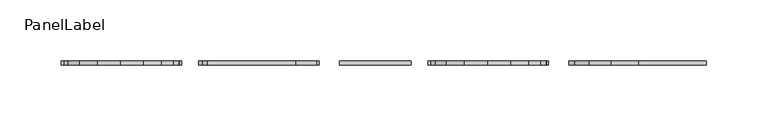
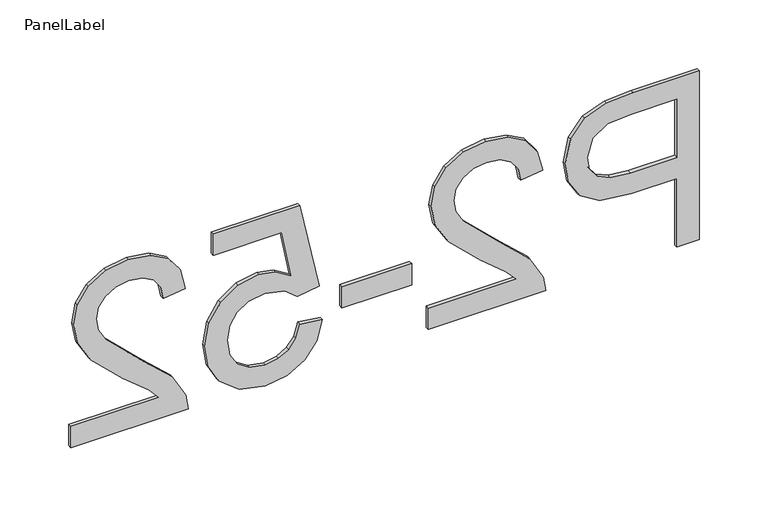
"""IFC4 building model written with IfcOpenShell, lengths in millimetres: fastener geometry, PanelLabel : Miranda."""

import ifcopenshell
import ifcopenshell.guid

model = None  # the IFC model being written
_history = None  # IfcOwnerHistory: only IFC2X3 demands one
_inside = {}  # id of a spatial element -> (the spatial element, [elements in it])
_under = {}  # id of a project, library or spatial element -> (it, [spatial elements below it])
_declared = {}  # id of a project -> (the project, [libraries it declares])
_typed = {}  # id of a type object -> (the type object, [elements of that type])
_made_of = {}  # id of a material, layer set ... -> (it, [elements and type objects made of it])


def new_model(schema):
    """Start an empty IFC model of exactly this schema.

    Asked for "IFC4X3", IfcOpenShell would pick the latest addendum, in which some entities
    have other attributes; the version numbers below select the first issue.
    IFC2X3 requires an IfcOwnerHistory on every rooted entity: one is made here for all.
    """
    global model, _history
    if schema == "IFC4X3":
        model = ifcopenshell.file(schema_version=(4, 3, 0, 0))
    else:
        model = ifcopenshell.file(schema=schema)
    _inside.clear()
    _under.clear()
    _declared.clear()
    _typed.clear()
    _made_of.clear()
    _history = None
    if model.schema == "IFC2X3":
        org = make("IfcOrganization", Name="unknown")
        user = make(
            "IfcPersonAndOrganization",
            ThePerson=make("IfcPerson", FamilyName="unknown"),
            TheOrganization=org,
        )
        app = make(
            "IfcApplication",
            ApplicationDeveloper=org,
            Version="unknown",
            ApplicationFullName="unknown",
            ApplicationIdentifier="unknown",
        )
        _history = make(
            "IfcOwnerHistory",
            OwningUser=user,
            OwningApplication=app,
            ChangeAction="ADDED",
            CreationDate=0,
        )
    return model


def make(cls, **values):
    """One entity of the class cls with the attributes given. An attribute that is None is left unset."""
    return model.create_entity(
        cls, **{name: value for name, value in values.items() if value is not None}
    )


def rooted(cls, **values):
    """An entity with a GlobalId (a new one), such as an element, a storey or a relation."""
    return make(cls, GlobalId=ifcopenshell.guid.new(), OwnerHistory=_history, **values)


def si_unit(unit_type, name, prefix=None):
    """IfcSIUnit, for example si_unit("LENGTHUNIT", "METRE", prefix="MILLI")."""
    return make("IfcSIUnit", UnitType=unit_type, Prefix=prefix, Name=name)


def assignment(units):
    """IfcUnitAssignment: the units of a project."""
    return None if units is None else make("IfcUnitAssignment", Units=units)


def point(xyz):
    """IfcCartesianPoint."""
    return None if xyz is None else make("IfcCartesianPoint", Coordinates=xyz)


def direction(xyz):
    """IfcDirection."""
    return None if xyz is None else make("IfcDirection", DirectionRatios=xyz)


def frame(location, z_axis=None, x_axis=None):
    """IfcAxis2Placement3D, a coordinate frame: its origin and axes. An axis left out is left unset."""
    return make(
        "IfcAxis2Placement3D",
        Location=point(location),
        Axis=direction(z_axis),
        RefDirection=direction(x_axis),
    )


def origin():
    """The frame at (0, 0, 0) with its axes left unset."""
    return frame((0.0, 0.0, 0.0))


def place(relative_to, where):
    """IfcLocalPlacement: puts the frame where relative to a parent placement (None: the world)."""
    return make(
        "IfcLocalPlacement", PlacementRelTo=relative_to, RelativePlacement=where
    )


def context(
    kind, dimensions, precision=None, world=None, true_north=None, identifier=None
):
    """IfcGeometricRepresentationContext, for example the 3D "Model" context."""
    return make(
        "IfcGeometricRepresentationContext",
        ContextIdentifier=identifier,
        ContextType=kind,
        CoordinateSpaceDimension=dimensions,
        Precision=precision,
        WorldCoordinateSystem=world,
        TrueNorth=true_north,
    )


def project(units=None, contexts=None):
    """IfcProject with its units and contexts."""
    return rooted(
        "IfcProject",
        Name="project",
        RepresentationContexts=contexts,
        UnitsInContext=assignment(units),
    )


def spatial(cls, under=None, at=None, **own):
    """A site, building, storey or space (cls), placed at a placement, below another one or the project."""
    s = rooted(cls, ObjectPlacement=at, **own)
    if under is not None:
        _under.setdefault(under.id(), (under, []))[1].append(s)
    return s


def polyline(points):
    """IfcPolyline through the points."""
    return make("IfcPolyline", Points=[point(p) for p in points])


def outline(outer, holes=None, kind="AREA"):
    """IfcArbitraryClosedProfileDef: a profile drawn as a closed curve; with holes, ...WithVoids."""
    if holes is None:
        return make("IfcArbitraryClosedProfileDef", ProfileType=kind, OuterCurve=outer)
    return make(
        "IfcArbitraryProfileDefWithVoids",
        ProfileType=kind,
        OuterCurve=outer,
        InnerCurves=holes,
    )


def extrude(swept, where, along, depth):
    """IfcExtrudedAreaSolid: the profile swept, set in the frame where, extruded along a direction by depth."""
    return make(
        "IfcExtrudedAreaSolid",
        SweptArea=swept,
        Position=where,
        ExtrudedDirection=direction(along),
        Depth=depth,
    )


def shape(context_of_items, identifier, shape_type, items):
    """IfcShapeRepresentation: the items that make up one representation, for example the "Body"."""
    return make(
        "IfcShapeRepresentation",
        ContextOfItems=context_of_items,
        RepresentationIdentifier=identifier,
        RepresentationType=shape_type,
        Items=items,
    )


def source(mapping_origin, context_of_items, identifier, shape_type, items):
    """IfcRepresentationMap: a shape defined once, which mapped items show again and again."""
    return make(
        "IfcRepresentationMap",
        MappingOrigin=mapping_origin,
        MappedRepresentation=shape(context_of_items, identifier, shape_type, items),
    )


def transform(
    local_origin,
    x_axis=None,
    y_axis=None,
    z_axis=None,
    scale=None,
    scale2=None,
    scale3=None,
    uniform=True,
):
    """IfcCartesianTransformationOperator3D, or its non-uniform kind. x_axis, y_axis, z_axis: its Axis1, 2, 3."""
    if uniform:
        return make(
            "IfcCartesianTransformationOperator3D",
            Axis1=direction(x_axis),
            Axis2=direction(y_axis),
            LocalOrigin=point(local_origin),
            Scale=scale,
            Axis3=direction(z_axis),
        )
    return make(
        "IfcCartesianTransformationOperator3DnonUniform",
        Axis1=direction(x_axis),
        Axis2=direction(y_axis),
        LocalOrigin=point(local_origin),
        Scale=scale,
        Axis3=direction(z_axis),
        Scale2=scale2,
        Scale3=scale3,
    )


def mapped(mapping_source, mapping_target):
    """IfcMappedItem: shows the shape of a source again, moved by a transform."""
    return make(
        "IfcMappedItem", MappingSource=mapping_source, MappingTarget=mapping_target
    )


def made_of(thing, what):
    """Note that an element or type object is made of a material, layer set ...; save() writes the relation."""
    if what is not None:
        _made_of.setdefault(what.id(), (what, []))[1].append(thing)
    return thing


def element(
    cls,
    number,
    at=None,
    inside=None,
    cuts=None,
    type_object=None,
    material=None,
    context=None,
    identifier="Body",
    shape_type=None,
    held_by="IfcProductDefinitionShape",
    body=None,
    shapes=None,
    **own,
):
    """One element of the class cls, such as IfcWall. Its Tag is "e" and its number.

    at: its placement. inside: the storey or other place that contains it. cuts: it is an
    opening in that element (IfcRelVoidsElement). A single representation is given by context,
    identifier, shape_type and body (its items); several are given by shapes. held_by: the class
    of the entity that holds the representations. save() writes the other relations.
    """
    e = rooted(cls, Tag="e%d" % number, ObjectPlacement=at, **own)
    if body is not None:
        shapes = [shape(context, identifier, shape_type, body)]
    if shapes is not None:
        e.Representation = make(held_by, Representations=shapes)
    if inside is not None:
        _inside.setdefault(inside.id(), (inside, []))[1].append(e)
    if cuts is not None:
        rooted(
            "IfcRelVoidsElement", RelatingBuildingElement=cuts, RelatedOpeningElement=e
        )
    if type_object is not None:
        _typed.setdefault(type_object.id(), (type_object, []))[1].append(e)
    return made_of(e, material)


def aggregate(whole, parts):
    """IfcRelAggregates: a whole, such as a stair, and the parts it consists of."""
    return rooted("IfcRelAggregates", RelatingObject=whole, RelatedObjects=parts)


def save(model, path):
    """Write the relations noted so far, then the file.

    IfcRelAggregates (storeys below a building ...), IfcRelContainedInSpatialStructure (elements
    in a storey), IfcRelDefinesByType, IfcRelAssociatesMaterial and IfcRelDeclares: one each for
    every whole, place, type object, material and project.
    """
    for whole, parts in _under.values():
        aggregate(whole, parts)
    for where, things in _inside.values():
        rooted(
            "IfcRelContainedInSpatialStructure",
            RelatedElements=things,
            RelatingStructure=where,
        )
    for kind, things in _typed.values():
        rooted("IfcRelDefinesByType", RelatedObjects=things, RelatingType=kind)
    for what, things in _made_of.values():
        rooted("IfcRelAssociatesMaterial", RelatedObjects=things, RelatingMaterial=what)
    for by, libraries in _declared.values():
        rooted("IfcRelDeclares", RelatingContext=by, RelatedDefinitions=libraries)
    model.write(path)


def panellabel_398e1005(model_context):
    return source(origin(), model_context, "Body", "SweptSolid", [
        extrude(outline(polyline([(1310.9113766, 260.2523077), (1460.9667612, 260.2523077), (1460.9667612, 204.6409615), (1459.5380112, 182.2205769), (1452.5224823, 163.9948558), (1438.0151747, 152.1801923), (1417.554742, 147.7107692), (1399.8693814, 150.7285457), (1385.1331073, 159.781875), (1375.1868093, 176.7116466), (1371.8713766, 203.35875), (1371.8713766, 241.4953846), (1310.9113766, 241.4953846), (1310.9113766, 260.2523077)]), holes=[polyline([(1390.6282997, 241.4953846), (1390.6282997, 202.2597115), (1392.3501266, 185.6275962), (1397.5156073, 174.6372115), (1405.8041891, 168.5100721), (1416.8953189, 166.4676923), (1432.4283958, 171.2851442), (1440.9276266, 183.9424038), (1442.2098381, 202.6993269), (1442.2098381, 241.4953846), (1390.6282997, 241.4953846)])]), frame((0.0, 60.325, 0.0), z_axis=(0.0, 1.0, 0.0), x_axis=(0.0, 0.0, 1.0)), (0.0, 0.0, 1.0), 3.175),
        extrude(outline(polyline([(1329.6682997, 32.8246154), (1310.9113766, 32.8246154), (1310.9113766, 131.2984615), (1323.8433958, 129.2835577), (1343.7543093, 117.8901923), (1365.4969535, 94.4074038), (1396.7462804, 62.0224038), (1407.5168573, 55.9502163), (1417.9943573, 53.9261538), (1427.3865569, 55.8357332), (1435.1943093, 61.5644712), (1440.4559559, 70.3705168), (1442.2098381, 81.5120192), (1440.4971698, 93.2121995), (1435.359165, 102.3021635), (1427.1988045, 108.1682813), (1416.4190689, 110.1969231), (1418.7636843, 128.9538462), (1436.9069775, 124.4065745), (1450.1595497, 114.5747596), (1458.2649583, 99.9712861), (1460.9667612, 81.1090385), (1457.9627227, 62.1094111), (1448.9506073, 47.5334135), (1435.4873862, 38.2602764), (1419.1300304, 35.1692308), (1401.3439247, 38.5029808), (1382.9533477, 49.5849519), (1357.254165, 76.4564423), (1339.211617, 98.0342308), (1329.6682997, 106.4968269), (1329.6682997, 32.8246154)])), frame((0.0, 60.325, 0.0), z_axis=(0.0, 1.0, 0.0), x_axis=(0.0, 0.0, 1.0)), (0.0, 0.0, 1.0), 3.175),
        extrude(outline(polyline([(-39.8584615, 63.5), (18.7569231, 63.5), (18.7569231, 60.325), (-39.8584615, 60.325), (-39.8584615, 63.5)])), frame((0.0, 0.0, 1355.4590689), z_axis=(0.0, 0.0, 1.0), x_axis=(1.0, 0.0, 0.0)), (0.0, 0.0, 1.0), 18.7569231),
        extrude(outline(polyline([(1350.7698381, -56.2707692), (1353.1144535, -75.0276923), (1341.8538886, -78.4713462), (1333.7896939, -84.4794231), (1328.9401867, -93.0244471), (1327.3236843, -104.0789423), (1329.5721338, -117.5238462), (1336.3174823, -127.5983654), (1346.7812444, -133.8903606), (1360.1849343, -135.9876923), (1372.8055593, -134.0231611), (1382.4587804, -128.1295673), (1388.5859198, -118.2611178), (1390.6282997, -104.3720192), (1387.3678189, -87.9047596), (1378.9052227, -77.3723077), (1381.2498381, -58.6153846), (1458.6221458, -75.0276923), (1458.6221458, -147.7107692), (1439.8652227, -147.7107692), (1439.8652227, -90.1944231), (1398.5413766, -82.1714423), (1406.6742612, -95.5705529), (1409.3852227, -109.6107692), (1406.0239968, -127.1358534), (1395.9403189, -141.684375), (1380.5720977, -151.4795553), (1361.357242, -154.7446154), (1342.6003189, -151.8046875), (1326.5543573, -142.9849038), (1313.0636602, -126.0963462), (1308.5667612, -104.0056731), (1311.4563165, -85.5830409), (1320.1249823, -70.9062981), (1333.5653069, -60.8455168), (1350.7698381, -56.2707692)])), frame((0.0, 60.325, 0.0), z_axis=(0.0, 1.0, 0.0), x_axis=(0.0, 0.0, 1.0)), (0.0, 0.0, 1.0), 3.175),
        extrude(outline(polyline([(1329.6682997, -267.2861538), (1310.9113766, -267.2861538), (1310.9113766, -168.8123077), (1323.8433958, -170.8272115), (1343.7543093, -182.2205769), (1365.4969535, -205.7033654), (1396.7462804, -238.0883654), (1407.5168573, -244.1605529), (1417.9943573, -246.1846154), (1427.3865569, -244.2750361), (1435.1943093, -238.5462981), (1440.4559559, -229.7402524), (1442.2098381, -218.59875), (1440.4971698, -206.8985697), (1435.359165, -197.8086058), (1427.1988045, -191.942488), (1416.4190689, -189.9138462), (1418.7636843, -171.1569231), (1436.9069775, -175.7041947), (1450.1595497, -185.5360096), (1458.2649583, -200.1394832), (1460.9667612, -219.0017308), (1457.9627227, -238.0013582), (1448.9506073, -252.5773558), (1435.4873862, -261.8504928), (1419.1300304, -264.9415385), (1401.3439247, -261.6077885), (1382.9533477, -250.5258173), (1357.254165, -223.6543269), (1339.211617, -202.0765385), (1329.6682997, -193.6139423), (1329.6682997, -267.2861538)])), frame((0.0, 60.325, 0.0), z_axis=(0.0, 1.0, 0.0), x_axis=(0.0, 0.0, 1.0)), (0.0, 0.0, 1.0), 3.175),
    ])


if __name__ == "__main__":
    model = new_model("IFC4")
    model_context = context("Model", 3, world=origin())
    ifc_project = project(units=[si_unit("LENGTHUNIT", "METRE", prefix="MILLI")], contexts=[model_context])
    site = spatial("IfcSite", under=ifc_project)
    building = spatial("IfcBuilding", under=site)
    placement = place(None, origin())
    panellabel_shape = panellabel_398e1005(model_context)
    element("IfcFastener", 1, ObjectType="PanelLabel : Miranda", at=placement, inside=building, context=model_context, shape_type="MappedRepresentation", body=[
        mapped(panellabel_shape, transform((0.0, 0.0, 0.0), x_axis=(1.0, 0.0, 0.0), y_axis=(0.0, 1.0, 0.0), z_axis=(0.0, 0.0, 1.0))),
    ])
    save(model, "model.ifc")
